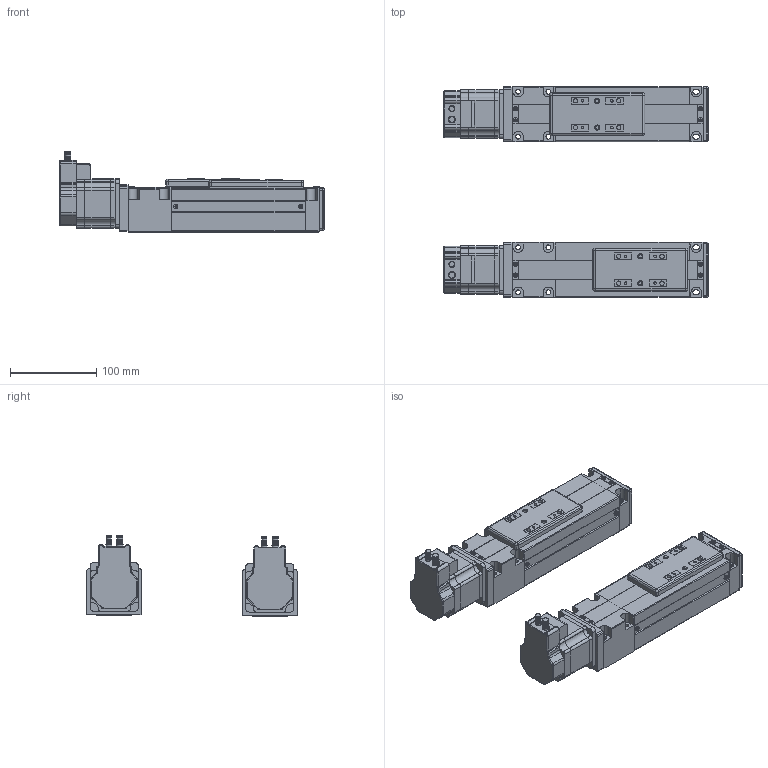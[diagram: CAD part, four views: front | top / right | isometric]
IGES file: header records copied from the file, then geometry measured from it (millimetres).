
Start section: IMSI TurboCAD v14.0
Global section: author: NULL; organization: NULL; date: 20100725.144958; units: millimetre
Bounding box: 306 x 244 x 93 mm (x, y, z)
Surface area: 402629.3 mm2 (no closed solid volume)
Topology: 0 solids, 0 shells, 3108 faces, 17462 edges, 17450 vertices
Faces by surface type: extrusion 2658, revolution 392, bspline 58
